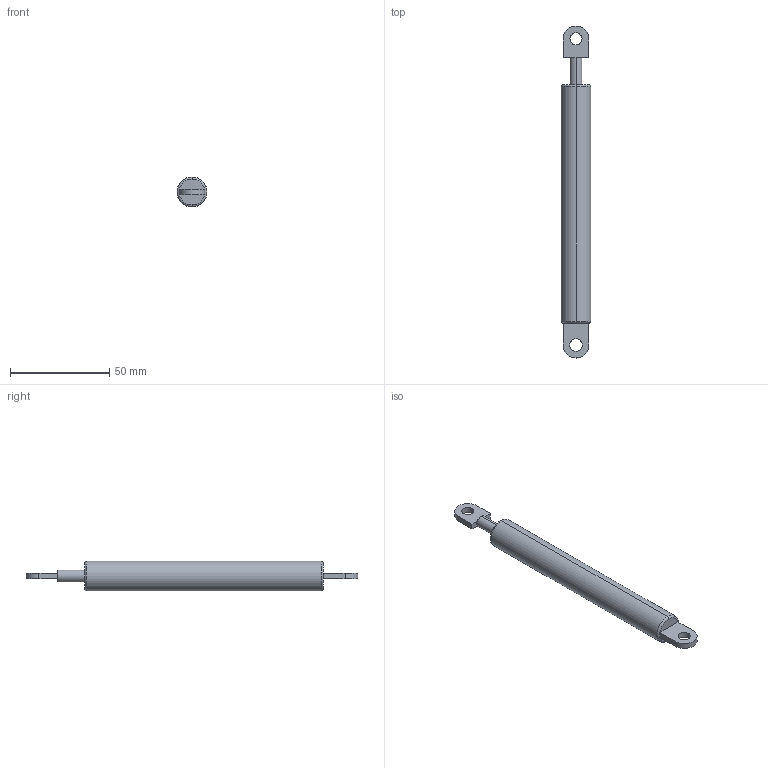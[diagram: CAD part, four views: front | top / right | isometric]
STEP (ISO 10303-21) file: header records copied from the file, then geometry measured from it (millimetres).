
FILE_DESCRIPTION (( 'STEP AP203' ), '1' );
FILE_NAME ('084.527.002.STEP', '2018-03-09T14:23:30', ( '' ), ( '' ), 'SwSTEP 2.0', 'SolidWorks 2016', '' );
FILE_SCHEMA (( 'CONFIG_CONTROL_DESIGN' ));
Length unit declared in the file: millimetre
Products named in the file (3): 084.527.002 - CORPO; 084.527.002; 084.527.002 - STELO_Default<A macchina>
Assembly tree (2 placements, depth 2):
  084.527.002
    084.527.002 - CORPO
    084.527.002 - STELO_Default<A macchina>
Bounding box: 15 x 167 x 15 mm (x, y, z)
Volume: 25736.9 mm3; surface area: 9385.3 mm2
Topology: 2 solids, 2 shells, 30 faces, 70 edges, 44 vertices
Faces by surface type: plane 16, cylinder 10, torus 4
Entity records: 1187 total; most frequent: CARTESIAN_POINT 171, DIRECTION 168, ORIENTED_EDGE 140, EDGE_CURVE 70, AXIS2_PLACEMENT_3D 69, VERTEX_POINT 44, CIRCLE 34, EDGE_LOOP 34
